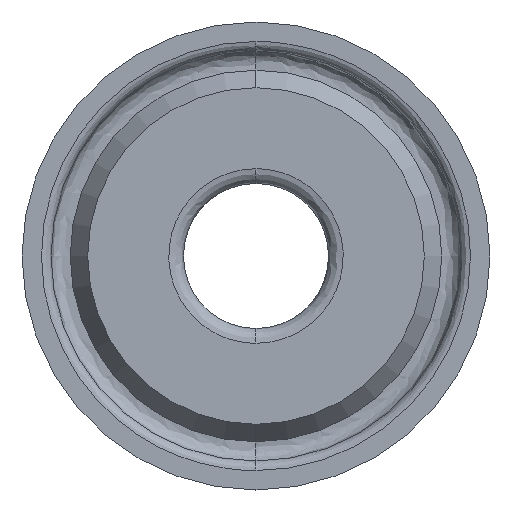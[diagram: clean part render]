
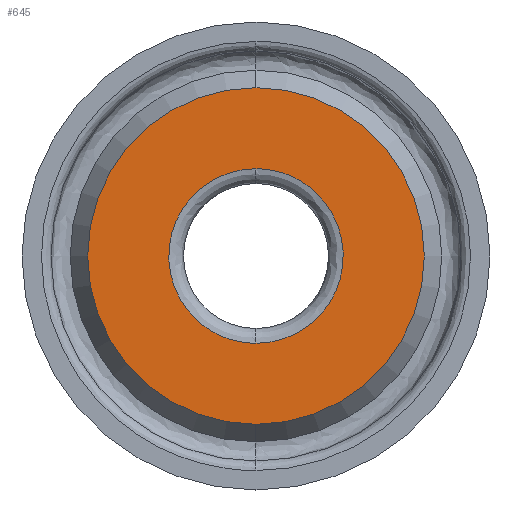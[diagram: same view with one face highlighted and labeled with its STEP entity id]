
A CAD part, left-side view. The second image highlights one B-rep face of the part: STEP entity #645.
In plain terms, the highlighted planar face has unit normal (-1, 0, 0).
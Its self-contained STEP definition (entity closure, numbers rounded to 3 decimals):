
#7 = CARTESIAN_POINT ( 'NONE',  ( 0.787, 9.322, 4.661 ) ) ;
#17 = DIRECTION ( 'NONE',  ( 1., 0., 0. ) ) ;
#41 = DIRECTION ( 'NONE',  ( 0., 0., -1. ) ) ;
#48 = ORIENTED_EDGE ( 'NONE', *, *, #374, .F. ) ;
#57 = FACE_OUTER_BOUND ( 'NONE', #572, .T. ) ;
#61 = CARTESIAN_POINT ( 'NONE',  ( 0.787, 0., 4.661 ) ) ;
#87 = CIRCLE ( 'NONE', #402, 8.987 ) ;
#94 = DIRECTION ( 'NONE',  ( 1., 0., 0. ) ) ;
#113 = CIRCLE ( 'NONE', #502, 8.987 ) ;
#136 = DIRECTION ( 'NONE',  ( 1., 0., 0. ) ) ;
#150 =( BOUNDED_CURVE ( )  B_SPLINE_CURVE ( 3, ( #730, #706, #280, #543 ),
 .UNSPECIFIED., .F., .T. ) 
 B_SPLINE_CURVE_WITH_KNOTS ( ( 4, 4 ),
 ( 0., 1. ),
 .UNSPECIFIED. ) 
 CURVE ( )  GEOMETRIC_REPRESENTATION_ITEM ( )  RATIONAL_B_SPLINE_CURVE ( ( 1., 0.333, 0.333, 1. ) ) 
 REPRESENTATION_ITEM ( '' )  );
#156 = ORIENTED_EDGE ( 'NONE', *, *, #468, .F. ) ;
#165 = EDGE_LOOP ( 'NONE', ( #48, #156 ) ) ;
#190 = FACE_BOUND ( 'NONE', #165, .T. ) ;
#192 = PLANE ( 'NONE',  #580 ) ;
#207 = ORIENTED_EDGE ( 'NONE', *, *, #413, .F. ) ;
#254 = CARTESIAN_POINT ( 'NONE',  ( 0.787, 9.322, -4.661 ) ) ;
#264 = CARTESIAN_POINT ( 'NONE',  ( 0.787, 0., -8.987 ) ) ;
#265 = CARTESIAN_POINT ( 'NONE',  ( 0.787, 0., -4.661 ) ) ;
#269 = CARTESIAN_POINT ( 'NONE',  ( 0.787, 4.661, 0. ) ) ;
#280 = CARTESIAN_POINT ( 'NONE',  ( 0.787, -9.322, 4.661 ) ) ;
#294 = VERTEX_POINT ( 'NONE', #403 ) ;
#342 = CARTESIAN_POINT ( 'NONE',  ( 0.787, 0., 0. ) ) ;
#374 = EDGE_CURVE ( 'NONE', #294, #616, #150, .T. ) ;
#379 = ORIENTED_EDGE ( 'NONE', *, *, #557, .F. ) ;
#402 = AXIS2_PLACEMENT_3D ( 'NONE', #439, #17, #745 ) ;
#403 = CARTESIAN_POINT ( 'NONE',  ( 0.787, 0., -4.661 ) ) ;
#408 = VERTEX_POINT ( 'NONE', #507 ) ;
#413 = EDGE_CURVE ( 'NONE', #524, #408, #87, .T. ) ;
#439 = CARTESIAN_POINT ( 'NONE',  ( 0.787, 0., 0. ) ) ;
#468 = EDGE_CURVE ( 'NONE', #616, #294, #582, .T. ) ;
#502 = AXIS2_PLACEMENT_3D ( 'NONE', #342, #136, #533 ) ;
#507 = CARTESIAN_POINT ( 'NONE',  ( 0.787, 0., 8.987 ) ) ;
#524 = VERTEX_POINT ( 'NONE', #264 ) ;
#533 = DIRECTION ( 'NONE',  ( 0., 0., -1. ) ) ;
#543 = CARTESIAN_POINT ( 'NONE',  ( 0.787, 0., 4.661 ) ) ;
#557 = EDGE_CURVE ( 'NONE', #408, #524, #113, .T. ) ;
#572 = EDGE_LOOP ( 'NONE', ( #207, #379 ) ) ;
#574 = CARTESIAN_POINT ( 'NONE',  ( 0.787, 0., 4.661 ) ) ;
#580 = AXIS2_PLACEMENT_3D ( 'NONE', #269, #94, #41 ) ;
#582 =( BOUNDED_CURVE ( )  B_SPLINE_CURVE ( 3, ( #61, #7, #254, #265 ),
 .UNSPECIFIED., .F., .F. ) 
 B_SPLINE_CURVE_WITH_KNOTS ( ( 4, 4 ),
 ( 0., 1. ),
 .UNSPECIFIED. ) 
 CURVE ( )  GEOMETRIC_REPRESENTATION_ITEM ( )  RATIONAL_B_SPLINE_CURVE ( ( 1., 0.333, 0.333, 1. ) ) 
 REPRESENTATION_ITEM ( '' )  );
#616 = VERTEX_POINT ( 'NONE', #574 ) ;
#645 = ADVANCED_FACE ( 'NONE', ( #57, #190 ), #192, .F. ) ;
#706 = CARTESIAN_POINT ( 'NONE',  ( 0.787, -9.322, -4.661 ) ) ;
#730 = CARTESIAN_POINT ( 'NONE',  ( 0.787, 0., -4.661 ) ) ;
#745 = DIRECTION ( 'NONE',  ( 0., 0., -1. ) ) ;
